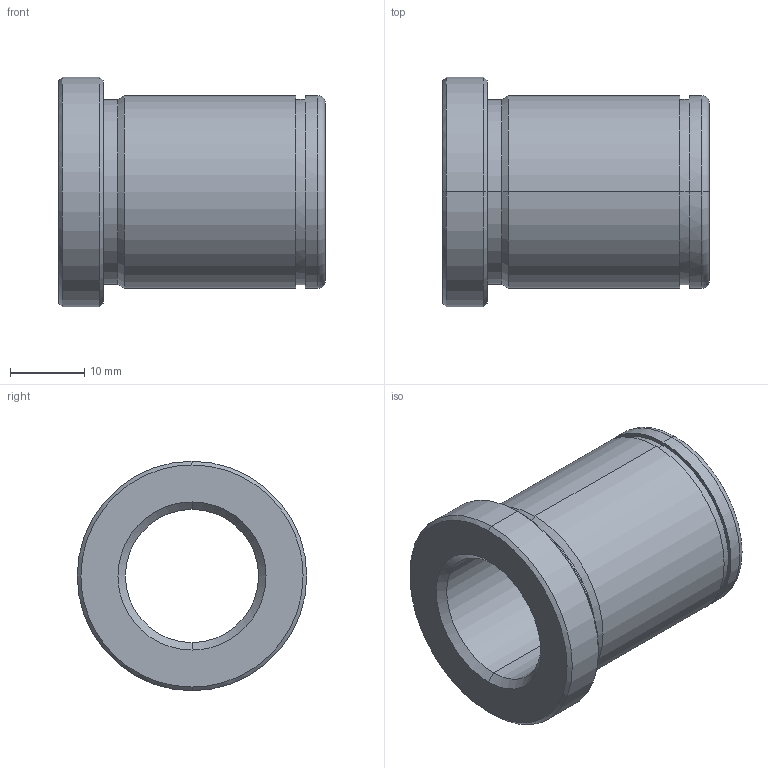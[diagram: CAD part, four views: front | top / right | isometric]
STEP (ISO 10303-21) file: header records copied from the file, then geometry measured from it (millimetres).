
FILE_DESCRIPTION(('CATIA V5 STEP Exchange'),'2;1');
FILE_NAME('C:\Users\Utente\Desktop\IO LAVORO\3D X SITO CF\X SITO\PLASTICA\553\553-18X36.stp','2021-05-23T17:30:41+00:00',('none'),('none'),'CATIA Version 5 Release 20 GA (IN-10)','CATIA V5 STEP AP203','none');
FILE_SCHEMA(('CONFIG_CONTROL_DESIGN'));
Length unit declared in the file: millimetre
Products named in the file (1): 553-18X36
Bounding box: 36 x 31 x 31 mm (x, y, z)
Volume: 11047 mm3; surface area: 6029.9 mm2
Topology: 1 solids, 1 shells, 29 faces, 92 edges, 68 vertices
Faces by surface type: cylinder 12, cone 8, plane 5, torus 4
Entity records: 1222 total; most frequent: CARTESIAN_POINT 368, ORIENTED_EDGE 184, DIRECTION 136, EDGE_CURVE 92, AXIS2_PLACEMENT_3D 88, VERTEX_POINT 68, CIRCLE 58, EDGE_LOOP 34
